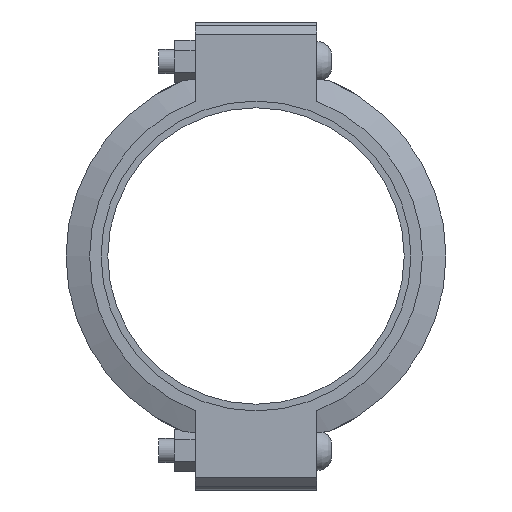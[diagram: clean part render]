
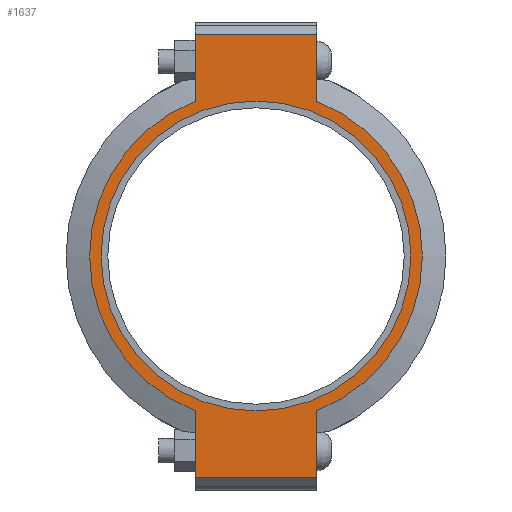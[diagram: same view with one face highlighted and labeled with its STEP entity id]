
A CAD part, left-side view. The second image highlights one B-rep face of the part: STEP entity #1637.
In plain terms, the highlighted planar face has unit normal (-1, 0, 0) as drawn and (0, 0, 1) by its records, which use the part's own axes.
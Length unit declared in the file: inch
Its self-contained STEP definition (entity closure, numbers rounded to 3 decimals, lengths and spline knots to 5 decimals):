
#208=LINE('',#2829,#297);
#219=LINE('',#2880,#308);
#225=LINE('',#2906,#314);
#227=LINE('',#2909,#316);
#228=LINE('',#2914,#317);
#229=LINE('',#2915,#318);
#297=VECTOR('',#2301,0.3937);
#308=VECTOR('',#2332,0.3937);
#314=VECTOR('',#2350,0.3937);
#316=VECTOR('',#2354,0.3937);
#317=VECTOR('',#2359,0.3937);
#318=VECTOR('',#2360,0.3937);
#380=FACE_BOUND('',#557,.T.);
#448=FACE_OUTER_BOUND('',#556,.T.);
#556=EDGE_LOOP('',(#1332,#1333,#1334,#1335,#1336,#1337,#1338,#1339));
#557=EDGE_LOOP('',(#1340));
#639=CIRCLE('',#1865,6.375);
#663=CIRCLE('',#1917,6.84375);
#664=CIRCLE('',#1918,6.84375);
#735=VERTEX_POINT('',#2655);
#776=VERTEX_POINT('',#2826);
#777=VERTEX_POINT('',#2828);
#794=VERTEX_POINT('',#2875);
#795=VERTEX_POINT('',#2879);
#802=VERTEX_POINT('',#2901);
#803=VERTEX_POINT('',#2905);
#804=VERTEX_POINT('',#2911);
#805=VERTEX_POINT('',#2913);
#899=EDGE_CURVE('',#735,#735,#639,.T.);
#956=EDGE_CURVE('',#777,#776,#208,.T.);
#977=EDGE_CURVE('',#795,#794,#219,.T.);
#988=EDGE_CURVE('',#803,#802,#225,.T.);
#990=EDGE_CURVE('',#803,#776,#227,.T.);
#991=EDGE_CURVE('',#802,#804,#663,.T.);
#992=EDGE_CURVE('',#804,#805,#228,.T.);
#993=EDGE_CURVE('',#795,#805,#229,.T.);
#994=EDGE_CURVE('',#794,#777,#664,.T.);
#1332=ORIENTED_EDGE('',*,*,#990,.F.);
#1333=ORIENTED_EDGE('',*,*,#988,.T.);
#1334=ORIENTED_EDGE('',*,*,#991,.T.);
#1335=ORIENTED_EDGE('',*,*,#992,.T.);
#1336=ORIENTED_EDGE('',*,*,#993,.F.);
#1337=ORIENTED_EDGE('',*,*,#977,.T.);
#1338=ORIENTED_EDGE('',*,*,#994,.T.);
#1339=ORIENTED_EDGE('',*,*,#956,.T.);
#1340=ORIENTED_EDGE('',*,*,#899,.T.);
#1477=PLANE('',#1916);
#1637=ADVANCED_FACE('',(#448,#380),#1477,.T.);
#1865=AXIS2_PLACEMENT_3D('',#2657,#2191,#2192);
#1916=AXIS2_PLACEMENT_3D('',#2910,#2355,#2356);
#1917=AXIS2_PLACEMENT_3D('',#2912,#2357,#2358);
#1918=AXIS2_PLACEMENT_3D('',#2916,#2361,#2362);
#2191=DIRECTION('center_axis',(0.,0.,-1.));
#2192=DIRECTION('ref_axis',(-1.,0.,0.));
#2301=DIRECTION('',(-1.,0.,0.));
#2332=DIRECTION('',(-1.,0.,0.));
#2350=DIRECTION('',(1.,0.,0.));
#2354=DIRECTION('',(0.,1.,0.));
#2355=DIRECTION('center_axis',(0.,0.,1.));
#2356=DIRECTION('ref_axis',(1.,0.,0.));
#2357=DIRECTION('center_axis',(0.,0.,1.));
#2358=DIRECTION('ref_axis',(-1.,0.,0.));
#2359=DIRECTION('',(1.,0.,0.));
#2360=DIRECTION('',(0.,-1.,0.));
#2361=DIRECTION('center_axis',(0.,0.,1.));
#2362=DIRECTION('ref_axis',(-1.,0.,0.));
#2655=CARTESIAN_POINT('',(6.375,0.,1.315));
#2657=CARTESIAN_POINT('Origin',(0.,0.,1.315));
#2826=CARTESIAN_POINT('',(-9.125,2.5,1.315));
#2828=CARTESIAN_POINT('',(-6.37079,2.5,1.315));
#2829=CARTESIAN_POINT('',(9.625,2.5,1.315));
#2875=CARTESIAN_POINT('',(6.37079,2.5,1.315));
#2879=CARTESIAN_POINT('',(9.125,2.5,1.315));
#2880=CARTESIAN_POINT('',(9.625,2.5,1.315));
#2901=CARTESIAN_POINT('',(-6.37079,-2.5,1.315));
#2905=CARTESIAN_POINT('',(-9.125,-2.5,1.315));
#2906=CARTESIAN_POINT('',(-9.625,-2.5,1.315));
#2909=CARTESIAN_POINT('',(-9.125,1.25,1.315));
#2910=CARTESIAN_POINT('Origin',(0.,0.,
1.315));
#2911=CARTESIAN_POINT('',(6.37079,-2.5,1.315));
#2912=CARTESIAN_POINT('Origin',(0.,0.,1.315));
#2913=CARTESIAN_POINT('',(9.125,-2.5,1.315));
#2914=CARTESIAN_POINT('',(-9.625,-2.5,1.315));
#2915=CARTESIAN_POINT('',(9.125,-1.25,1.315));
#2916=CARTESIAN_POINT('Origin',(0.,0.,1.315));
